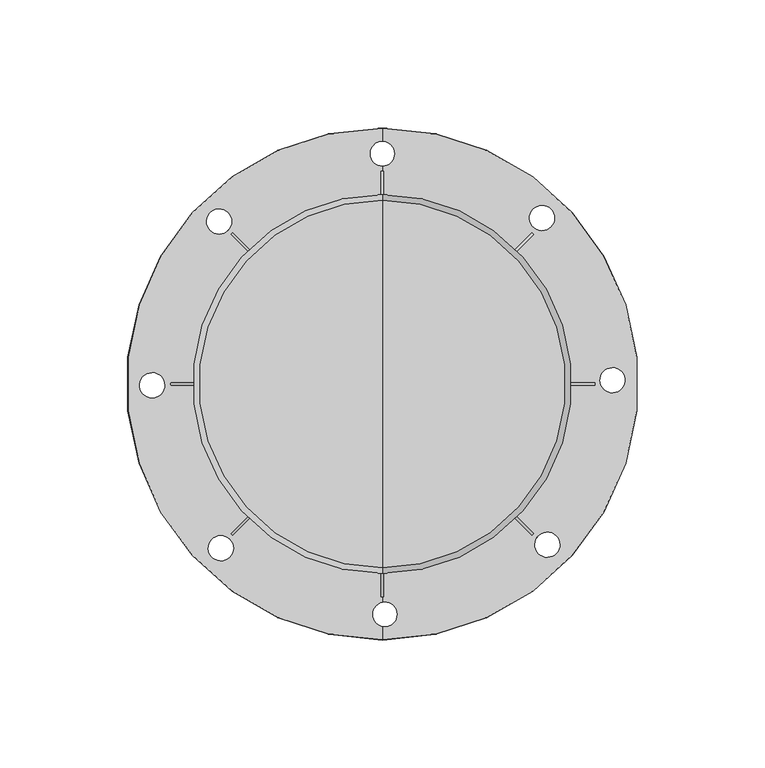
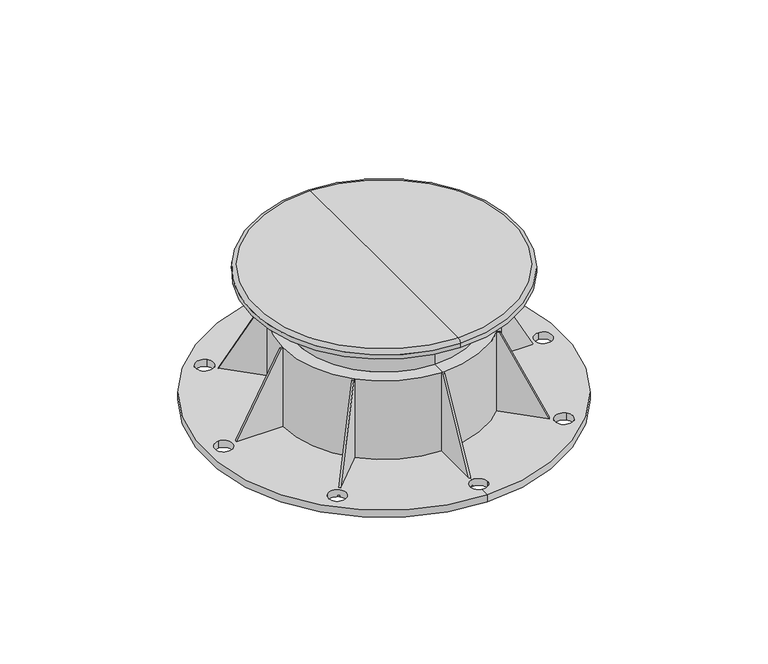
"""IFC4 building model written with IfcOpenShell, lengths in millimetres: proxy geometry, Podparcie legarow : Podparcie legarow."""

from ifc_helpers import new_model, si_unit, point, frame, origin, place, context, project, spatial, polyline, circle_curve, ellipse_curve, trimmed, outline, extrude, source, transform, mapped, element, save
from ifc_brep_helpers import plane_surface, cylinder_surface, revolved_surface, advanced_brep


def generic_models_15976a7a(model_context):
    return source(origin(), model_context, "Body", "SolidModel", [
        extrude(outline(polyline([(-14.1498784, 0.0), (14.1498783, 0.0), (14.1498783, -50.49991), (12.75627, -50.49991), (-14.1498784, 0.0)])), frame((-50.5370153, 49.8160648, 0.0), z_axis=(0.7071067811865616, 0.7071067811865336, 0.0), x_axis=(0.7071067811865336, -0.7071067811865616, 0.0)), (0.0, 0.0, 1.0), 0.999986),
        extrude(outline(polyline([(85.1102218, 0.0), (56.8104652, 0.0), (56.8104652, 50.49991), (58.2040735, 50.49991), (85.1102218, 0.0)])), frame((-0.509789, 0.0, 0.0), z_axis=(1.0, 0.0, 0.0), x_axis=(0.0, 1.0, 0.0)), (0.0, 0.0, 1.0), 0.999986),
        extrude(outline(polyline([(-14.1498784, 0.0), (14.1498783, 0.0), (-12.75627, -50.49991), (-14.1498784, -50.49991), (-14.1498784, 0.0)])), frame((50.5231617, 49.8299185, 0.0), z_axis=(-0.7071067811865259, 0.7071067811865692, 0.0), x_axis=(0.7071067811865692, 0.7071067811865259, 0.0)), (0.0, 0.0, 1.0), 0.999986),
        extrude(outline(polyline([(0.0, 56.8104652), (0.0, 85.1102218), (50.49991, 58.2040735), (50.49991, 56.8104652), (0.0, 56.8104652)])), frame((0.0, -0.490197, 0.0), z_axis=(0.0, 1.0, 0.0), x_axis=(0.0, 0.0, 1.0)), (0.0, 0.0, 1.0), 0.999986),
        extrude(outline(polyline([(-14.1498784, 0.0), (14.1498783, 0.0), (-12.75627, -50.49991), (-14.1498784, -50.49991), (-14.1498784, 0.0)])), frame((49.8299185, -50.5231617, 0.0), z_axis=(0.7071067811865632, 0.7071067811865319, 0.0), x_axis=(0.7071067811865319, -0.7071067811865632, 0.0)), (0.0, 0.0, 1.0), 0.999986),
        extrude(outline(polyline([(-56.8104652, 0.0), (-85.1102218, 0.0), (-58.2040735, 50.49991), (-56.8104652, 50.49991), (-56.8104652, 0.0)])), frame((-0.490197, 0.0, 0.0), z_axis=(1.0, 0.0, 0.0), x_axis=(0.0, 1.0, 0.0)), (0.0, 0.0, 1.0), 0.999986),
        extrude(outline(polyline([(-14.1498784, 0.0), (14.1498783, 0.0), (14.1498783, -50.49991), (12.75627, -50.49991), (-14.1498784, 0.0)])), frame((-49.8160648, -50.5370153, 0.0), z_axis=(-0.7071067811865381, 0.707106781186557, 0.0), x_axis=(0.707106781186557, 0.7071067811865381, 0.0)), (0.0, 0.0, 1.0), 0.999986),
        advanced_brep(
        [(0.0, 56.81258, 50.49991), (0.0, 56.81258, 4.099786), (-56.8104652, 0.490197, 4.099786), (-56.8104652, 0.490197, 50.49991), (0.0, -56.81258, 4.099786), (0.0, -56.81258, 50.49991), (-56.8102927, -0.509789, 50.49991), (-56.8102927, -0.509789, 4.099786), (0.0, -49.25328, 50.49991), (0.0, 49.25328, 50.49991), (-58.2040735, 0.490197, 50.49991), (-58.2040735, -0.509789, 50.49991), (0.0, -49.25328, 75.49989), (0.0, 49.25328, 75.49989), (0.0, -73.99988, 75.49989), (0.0, 73.99988, 75.49989), (0.0, -73.99988, 78.03481), (0.0, 73.99988, 78.03481), (0.0, -71.76101, 79.99992), (0.0, 71.76101, 79.99992), (0.0, 0.0, 79.99992), (0.0, -100.019, 0.0), (0.0, 100.019, 0.0), (0.0, 94.8778434, 0.0), (-3.5271568, 93.3774413, 0.0), (0.0, 85.0857743, 0.0), (0.0, 0.0, 0.0), (0.0, -85.2046473, 0.0), (-3.9187228, -90.0553531, 0.0), (0.0, -94.7997669, 0.0), (-90.0327577, 4.4074436, 0.0), (-89.9796109, -5.3844813, 0.0), (-85.1101959, -0.509789, 0.0), (-85.2089695, 0.490197, 0.0), (-59.6345725, -67.5946801, 0.0), (-66.6147518, -60.7272414, 0.0), (-67.2700158, 60.0005666, 0.0), (-60.3647931, 66.9433698, 0.0), (5.8727694, -89.9490611, 0.0), (3.5271568, 86.5861764, 0.0), (58.897325, 68.2380255, 0.0), (65.9516385, 61.4467606, 0.0), (89.9158616, 6.3608845, 0.0), (90.0752957, -3.4298866, 0.0), (67.9173531, -59.2668217, 0.0), (61.0879008, -66.2841715, 0.0), (0.0, -100.0075, 4.099786), (0.0, 100.0075, 4.099786), (0.0, -94.7997669, 4.099786), (-3.9187228, -90.0553531, 4.099786), (0.0, -85.2046473, 4.099786), (-82.9258724, -0.509789, 4.099786), (-82.9258724, 0.490197, 4.099786), (0.0, 85.0857743, 4.099786), (-3.5271568, 93.3774413, 4.099786), (0.0, 94.8778434, 4.099786), (-90.0327577, 4.4074436, 4.099786), (-89.9796109, -5.3844813, 4.099786), (-66.6147518, -60.7272414, 4.099786), (-59.6345725, -67.5946801, 4.099786), (-60.3647931, 66.9433698, 4.099786), (-67.2700158, 60.0005666, 4.099786), (5.8727694, -89.9490611, 4.099786), (3.5271568, 86.5861764, 4.099786), (65.9516385, 61.4467606, 4.099786), (58.897325, 68.2380255, 4.099786), (90.0752957, -3.4298866, 4.099786), (89.9158616, 6.3608845, 4.099786), (61.0879008, -66.2841715, 4.099786), (67.9173531, -59.2668217, 4.099786)],
        [
            (0, 1),
            (1, 2, circle_curve(frame((0.0, 0.0, 4.099786), z_axis=(0.0, 0.0, 1.0), x_axis=(0.0, 1.0, 0.0)), 56.81258)),
            (2, 3),
            (3, 0, circle_curve(frame((0.0, 0.0, 50.49991), z_axis=(0.0, 0.0, -1.0), x_axis=(0.0, 1.0, 0.0)), 56.81258)),
            (4, 5),
            (5, 6, circle_curve(frame((0.0, 0.0, 50.49991), z_axis=(0.0, 0.0, -1.0), x_axis=(0.0, 1.0, 0.0)), 56.81258)),
            (6, 7),
            (7, 4, circle_curve(frame((0.0, 0.0, 4.099786), z_axis=(0.0, 0.0, 1.0), x_axis=(0.0, 1.0, 0.0)), 56.81258)),
            (0, 5, circle_curve(frame((0.0, 0.0, 50.49991), z_axis=(0.0, 0.0, -1.0), x_axis=(0.0, 1.0, 0.0)), 56.81258)),
            (4, 1, circle_curve(frame((0.0, 0.0, 4.099786), z_axis=(0.0, 0.0, 1.0), x_axis=(0.0, 1.0, 0.0)), 56.81258)),
            (8, 9, circle_curve(frame((0.0, 0.0, 50.49991), z_axis=(0.0, 0.0, -1.0), x_axis=(0.0, 1.0, 0.0)), 49.25328)),
            (9, 0),
            (3, 10),
            (10, 11),
            (11, 6),
            (5, 8),
            (9, 8, circle_curve(frame((0.0, 0.0, 50.49991), z_axis=(0.0, 0.0, -1.0), x_axis=(0.0, 1.0, 0.0)), 49.25328)),
            (8, 12),
            (12, 13, circle_curve(frame((0.0, 0.0, 75.49989), z_axis=(0.0, 0.0, -1.0), x_axis=(0.0, 1.0, 0.0)), 49.25328)),
            (13, 9),
            (13, 12, circle_curve(frame((0.0, 0.0, 75.49989), z_axis=(0.0, 0.0, -1.0), x_axis=(0.0, 1.0, 0.0)), 49.25328)),
            (12, 14),
            (14, 15, circle_curve(frame((0.0, 0.0, 75.49989), z_axis=(0.0, 0.0, -1.0), x_axis=(0.0, 1.0, 0.0)), 73.99988)),
            (15, 13),
            (15, 14, circle_curve(frame((0.0, 0.0, 75.49989), z_axis=(0.0, 0.0, -1.0), x_axis=(0.0, 1.0, 0.0)), 73.99988)),
            (14, 16),
            (16, 17, circle_curve(frame((0.0, 0.0, 78.03481), z_axis=(0.0, 0.0, -1.0), x_axis=(0.0, 1.0, 0.0)), 73.99988)),
            (17, 15),
            (17, 16, circle_curve(frame((0.0, 0.0, 78.03481), z_axis=(0.0, 0.0, -1.0), x_axis=(0.0, 1.0, 0.0)), 73.99988)),
            (16, 18, circle_curve(frame((0.0, -71.8796652, 77.8771663), z_axis=(-1.0, 0.0, 0.0), x_axis=(0.0, 0.05580972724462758, 0.9984414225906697)), 2.1260673)),
            (18, 19, circle_curve(frame((0.0, 0.0, 79.99992), z_axis=(0.0, 0.0, -1.0), x_axis=(0.0, 1.0, 0.0)), 71.76101)),
            (19, 17, circle_curve(frame((0.0, 71.8796652, 77.8771663), z_axis=(-1.0, 0.0, 0.0), x_axis=(0.0, -0.05580972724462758, 0.9984414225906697)), 2.1260673)),
            (19, 18, circle_curve(frame((0.0, 0.0, 79.99992), z_axis=(0.0, 0.0, -1.0), x_axis=(0.0, 1.0, 0.0)), 71.76101)),
            (18, 20),
            (20, 19),
            (21, 22, circle_curve(frame((0.0, 0.0, 0.0), z_axis=(0.0, 0.0, -1.0), x_axis=(0.0, 1.0, 0.0)), 100.019)),
            (22, 23),
            (23, 24, circle_curve(frame((0.0, 89.9818088, 0.0), z_axis=(0.0, 0.0, 1.0), x_axis=(0.7204109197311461, -0.6935474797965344, 0.0)), 4.8960346)),
            (24, 25, circle_curve(frame((0.0, 89.9818088, 0.0), z_axis=(0.0, 0.0, 1.0), x_axis=(0.7204109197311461, -0.6935474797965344, 0.0)), 4.8960346)),
            (25, 26),
            (26, 27),
            (27, 28, circle_curve(frame((0.9770233, -90.0022071, 0.0), z_axis=(0.0, 0.0, 1.0), x_axis=(-0.9999410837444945, -0.010854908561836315, 0.0)), 4.8960346)),
            (28, 29, circle_curve(frame((0.9770233, -90.0022071, 0.0), z_axis=(0.0, 0.0, 1.0), x_axis=(-0.9999410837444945, -0.010854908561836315, 0.0)), 4.8960346)),
            (29, 21),
            (30, 31, circle_curve(frame((-90.0061843, -0.4885188, 0.0), z_axis=(0.0, 0.0, 1.0), x_axis=(-0.005427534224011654, 0.9999852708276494, 0.0)), 4.8960346)),
            (31, 32, circle_curve(frame((-90.0061843, -0.4885188, 0.0), z_axis=(0.0, 0.0, 1.0), x_axis=(-0.005427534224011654, 0.9999852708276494, 0.0)), 4.8960346)),
            (32, 33, circle_curve(frame((-90.0061843, -0.4885188, 0.0), z_axis=(0.0, 0.0, 1.0), x_axis=(-0.005427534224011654, 0.9999852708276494, 0.0)), 4.8960346)),
            (33, 30, circle_curve(frame((-90.0061843, -0.4885188, 0.0), z_axis=(0.0, 0.0, 1.0), x_axis=(-0.005427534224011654, 0.9999852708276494, 0.0)), 4.8960346)),
            (34, 35, circle_curve(frame((-63.1246622, -64.1609607, 0.0), z_axis=(0.0, 0.0, 1.0), x_axis=(-0.7128400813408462, 0.7013266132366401, 0.0)), 4.8960346)),
            (35, 34, circle_curve(frame((-63.1246622, -64.1609607, 0.0), z_axis=(0.0, 0.0, 1.0), x_axis=(-0.7128400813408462, 0.7013266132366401, 0.0)), 4.8960346)),
            (36, 37, circle_curve(frame((-63.8174044, 63.4719682, 0.0), z_axis=(0.0, 0.0, 1.0), x_axis=(0.7051852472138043, 0.7090231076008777, 0.0)), 4.8960346)),
            (37, 36, circle_curve(frame((-63.8174044, 63.4719682, 0.0), z_axis=(0.0, 0.0, 1.0), x_axis=(0.7051852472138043, 0.7090231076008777, 0.0)), 4.8960346)),
            (22, 21, circle_curve(frame((0.0, 0.0, 0.0), z_axis=(0.0, 0.0, -1.0), x_axis=(0.0, 1.0, 0.0)), 100.019)),
            (29, 38, circle_curve(frame((0.9770233, -90.0022071, 0.0), z_axis=(0.0, 0.0, 1.0), x_axis=(-0.9999410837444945, -0.010854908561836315, 0.0)), 4.8960346)),
            (38, 27, circle_curve(frame((0.9770233, -90.0022071, 0.0), z_axis=(0.0, 0.0, 1.0), x_axis=(-0.9999410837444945, -0.010854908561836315, 0.0)), 4.8960346)),
            (25, 39, circle_curve(frame((0.0, 89.9818088, 0.0), z_axis=(0.0, 0.0, 1.0), x_axis=(0.7204109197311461, -0.6935474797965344, 0.0)), 4.8960346)),
            (39, 23, circle_curve(frame((0.0, 89.9818088, 0.0), z_axis=(0.0, 0.0, 1.0), x_axis=(0.7204109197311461, -0.6935474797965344, 0.0)), 4.8960346)),
            (40, 41, circle_curve(frame((62.4244817, 64.8423931, 0.0), z_axis=(0.0, 0.0, 1.0), x_axis=(0.7204109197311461, -0.6935474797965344, 0.0)), 4.8960346)),
            (41, 40, circle_curve(frame((62.4244817, 64.8423931, 0.0), z_axis=(0.0, 0.0, 1.0), x_axis=(0.7204109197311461, -0.6935474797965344, 0.0)), 4.8960346)),
            (42, 43, circle_curve(frame((89.9955786, 1.465499, 0.0), z_axis=(0.0, 0.0, 1.0), x_axis=(0.016281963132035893, -0.9998674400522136, 0.0)), 4.8960346)),
            (43, 42, circle_curve(frame((89.9955786, 1.465499, 0.0), z_axis=(0.0, 0.0, 1.0), x_axis=(0.016281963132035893, -0.9998674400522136, 0.0)), 4.8960346)),
            (44, 45, circle_curve(frame((64.502627, -62.7754966, 0.0), z_axis=(0.0, 0.0, 1.0), x_axis=(-0.6974473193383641, -0.7166360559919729, 0.0)), 4.8960346)),
            (45, 44, circle_curve(frame((64.502627, -62.7754966, 0.0), z_axis=(0.0, 0.0, 1.0), x_axis=(-0.6974473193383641, -0.7166360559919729, 0.0)), 4.8960346)),
            (21, 46),
            (46, 47, circle_curve(frame((0.0, 0.0, 4.099786), z_axis=(0.0, 0.0, -1.0), x_axis=(0.0, 1.0, 0.0)), 100.0075)),
            (47, 22),
            (47, 46, circle_curve(frame((0.0, 0.0, 4.099786), z_axis=(0.0, 0.0, -1.0), x_axis=(0.0, 1.0, 0.0)), 100.0075)),
            (46, 48),
            (48, 49, circle_curve(frame((0.9770233, -90.0022071, 4.099786), z_axis=(0.0, 0.0, -1.0), x_axis=(-0.9999410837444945, -0.010854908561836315, 0.0)), 4.8960346)),
            (49, 50, circle_curve(frame((0.9770233, -90.0022071, 4.099786), z_axis=(0.0, 0.0, -1.0), x_axis=(-0.9999410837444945, -0.010854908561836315, 0.0)), 4.8960346)),
            (50, 4),
            (7, 51),
            (51, 52),
            (52, 2),
            (1, 53),
            (53, 54, circle_curve(frame((0.0, 89.9818088, 4.099786), z_axis=(0.0, 0.0, -1.0), x_axis=(0.7204109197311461, -0.6935474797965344, 0.0)), 4.8960346)),
            (54, 55, circle_curve(frame((0.0, 89.9818088, 4.099786), z_axis=(0.0, 0.0, -1.0), x_axis=(0.7204109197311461, -0.6935474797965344, 0.0)), 4.8960346)),
            (55, 47),
            (56, 57, circle_curve(frame((-90.0061843, -0.4885188, 4.099786), z_axis=(0.0, 0.0, -1.0), x_axis=(-0.005427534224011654, 0.9999852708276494, 0.0)), 4.8960346)),
            (57, 56, circle_curve(frame((-90.0061843, -0.4885188, 4.099786), z_axis=(0.0, 0.0, -1.0), x_axis=(-0.005427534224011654, 0.9999852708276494, 0.0)), 4.8960346)),
            (58, 59, circle_curve(frame((-63.1246622, -64.1609607, 4.099786), z_axis=(0.0, 0.0, -1.0), x_axis=(-0.7128400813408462, 0.7013266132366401, 0.0)), 4.8960346)),
            (59, 58, circle_curve(frame((-63.1246622, -64.1609607, 4.099786), z_axis=(0.0, 0.0, -1.0), x_axis=(-0.7128400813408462, 0.7013266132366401, 0.0)), 4.8960346)),
            (60, 61, circle_curve(frame((-63.8174044, 63.4719682, 4.099786), z_axis=(0.0, 0.0, -1.0), x_axis=(0.7051852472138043, 0.7090231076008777, 0.0)), 4.8960346)),
            (61, 60, circle_curve(frame((-63.8174044, 63.4719682, 4.099786), z_axis=(0.0, 0.0, -1.0), x_axis=(0.7051852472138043, 0.7090231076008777, 0.0)), 4.8960346)),
            (50, 62, circle_curve(frame((0.9770233, -90.0022071, 4.099786), z_axis=(0.0, 0.0, -1.0), x_axis=(-0.9999410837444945, -0.010854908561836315, 0.0)), 4.8960346)),
            (62, 48, circle_curve(frame((0.9770233, -90.0022071, 4.099786), z_axis=(0.0, 0.0, -1.0), x_axis=(-0.9999410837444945, -0.010854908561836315, 0.0)), 4.8960346)),
            (55, 63, circle_curve(frame((0.0, 89.9818088, 4.099786), z_axis=(0.0, 0.0, -1.0), x_axis=(0.7204109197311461, -0.6935474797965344, 0.0)), 4.8960346)),
            (63, 53, circle_curve(frame((0.0, 89.9818088, 4.099786), z_axis=(0.0, 0.0, -1.0), x_axis=(0.7204109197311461, -0.6935474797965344, 0.0)), 4.8960346)),
            (64, 65, circle_curve(frame((62.4244817, 64.8423931, 4.099786), z_axis=(0.0, 0.0, -1.0), x_axis=(0.7204109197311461, -0.6935474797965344, 0.0)), 4.8960346)),
            (65, 64, circle_curve(frame((62.4244817, 64.8423931, 4.099786), z_axis=(0.0, 0.0, -1.0), x_axis=(0.7204109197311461, -0.6935474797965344, 0.0)), 4.8960346)),
            (66, 67, circle_curve(frame((89.9955786, 1.465499, 4.099786), z_axis=(0.0, 0.0, -1.0), x_axis=(0.016281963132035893, -0.9998674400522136, 0.0)), 4.8960346)),
            (67, 66, circle_curve(frame((89.9955786, 1.465499, 4.099786), z_axis=(0.0, 0.0, -1.0), x_axis=(0.016281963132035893, -0.9998674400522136, 0.0)), 4.8960346)),
            (68, 69, circle_curve(frame((64.502627, -62.7754966, 4.099786), z_axis=(0.0, 0.0, -1.0), x_axis=(-0.6974473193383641, -0.7166360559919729, 0.0)), 4.8960346)),
            (69, 68, circle_curve(frame((64.502627, -62.7754966, 4.099786), z_axis=(0.0, 0.0, -1.0), x_axis=(-0.6974473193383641, -0.7166360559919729, 0.0)), 4.8960346)),
            (31, 57),
            (56, 30),
            (34, 59),
            (58, 35),
            (38, 62),
            (49, 28),
            (40, 65),
            (64, 41),
            (42, 67),
            (66, 43),
            (44, 69),
            (68, 45),
            (24, 54),
            (63, 39),
            (36, 61),
            (60, 37),
            (10, 52),
            (51, 11),
        ],
        [
            cylinder_surface(frame((0.0, 0.0, 99.99992), z_axis=(0.0, 0.0, 1.0), x_axis=(0.0, 1.0, 0.0)), 56.81258),
            plane_surface(frame((0.0, 0.0, 50.49991), z_axis=(0.0, 0.0, 1.0), x_axis=(0.0, 1.0, 0.0))),
            cylinder_surface(frame((0.0, 0.0, 99.99992), z_axis=(0.0, 0.0, 1.0), x_axis=(0.0, 1.0, 0.0)), 49.25328),
            plane_surface(frame((0.0, 0.0, 75.49989), z_axis=(0.0, 0.0, -1.0), x_axis=(0.0, 1.0, 0.0))),
            cylinder_surface(frame((0.0, 0.0, 99.99992), z_axis=(0.0, 0.0, 1.0), x_axis=(0.0, 1.0, 0.0)), 73.99988),
            revolved_surface(trimmed(ellipse_curve(frame((0.0, 71.8796652, 77.8771663), z_axis=(1.0, 0.0, 0.0), x_axis=(0.0, -0.05580972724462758, 0.9984414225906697)), 2.1260673, 2.1260673), [point((0.0, 73.99988, 78.03481))], [point((0.0, 71.76101, 79.99992))], True, "CARTESIAN"), (0.0, 0.0, 99.99992), (0.0, 0.0, 1.0)),
            plane_surface(frame((0.0, 0.0, 79.99992), z_axis=(0.0, 0.0, 1.0), x_axis=(0.0, 1.0, 0.0))),
            plane_surface(frame((0.0, 0.0, 0.0), z_axis=(0.0, 0.0, -1.0), x_axis=(0.0, 1.0, 0.0))),
            revolved_surface(polyline([(0.0, 100.019, 0.0), (0.0, 100.0075, 4.099786)]), (0.0, 0.0, 99.99992), (0.0, 0.0, 1.0)),
            plane_surface(frame((0.0, 0.0, 4.099786), z_axis=(0.0, 0.0, 1.0), x_axis=(0.0, 1.0, 0.0))),
            revolved_surface(polyline([(-90.03275769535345, 4.4074436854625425, 4.09978600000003), (-90.03275769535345, 4.4074436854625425, 2.842170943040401e-14)]), (-90.0061843, -0.4885188, -56.8316427), (0.0, 0.0, 1.0000000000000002)),
            revolved_surface(polyline([(-66.6147519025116, -60.7272413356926, 4.099786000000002), (-66.6147519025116, -60.7272413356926, 0.0)]), (-63.1246622, -64.1609607, -56.8316427), (0.0, 0.0, 1.0)),
            revolved_surface(polyline([(-3.9187228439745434, -90.0553531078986, 4.099786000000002), (-3.9187228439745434, -90.0553531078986, 0.0)]), (0.9770233, -90.0022071, -56.8316427), (0.0, 0.0, 1.0)),
            revolved_surface(polyline([(65.95163848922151, 61.44676064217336, 4.09978600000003), (65.95163848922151, 61.44676064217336, 2.842170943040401e-14)]), (62.4244817, 64.8423931, -56.8316427), (0.0, 0.0, 1.0000000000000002)),
            revolved_surface(polyline([(90.07529565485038, -3.429886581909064, 4.099786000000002), (90.07529565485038, -3.429886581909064, 0.0)]), (89.9955786, 1.465499, -56.8316427), (0.0, 0.0, 1.0)),
            revolved_surface(polyline([(61.08790079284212, -66.28417152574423, 4.09978600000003), (61.08790079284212, -66.28417152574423, 2.842170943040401e-14)]), (64.502627, -62.7754966, -56.8316427), (0.0, 0.0, 1.0000000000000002)),
            revolved_surface(polyline([(3.527156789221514, 86.58617634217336, 4.09978600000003), (3.527156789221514, 86.58617634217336, 2.842170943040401e-14)]), (0.0, 89.9818088, -56.8316427), (0.0, 0.0, 1.0000000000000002)),
            revolved_surface(polyline([(-60.36479303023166, 66.94336986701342, 4.099786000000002), (-60.36479303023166, 66.94336986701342, 0.0)]), (-63.8174044, 63.4719682, -56.8316427), (0.0, 0.0, 1.0)),
            plane_surface(frame((-85.1102218, -0.009796, 0.0), z_axis=(-0.8825497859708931, 0.0, 0.47021896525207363), x_axis=(0.0, -1.0, 0.0))),
            plane_surface(frame((-70.9603435, -0.509789, 0.0), z_axis=(0.0, -1.0, 0.0), x_axis=(1.0, 0.0, 0.0))),
            plane_surface(frame((-70.9603435, 0.490197, 0.0), z_axis=(0.0, 1.0, 0.0), x_axis=(-1.0, 0.0, 0.0))),
        ],
        [
            (0, [[1, 2, 3, 4]]),
            (0, [[5, 6, 7, 8]]),
            (0, [[-1, 9, -5, 10]]),
            (1, [[11, 12, -4, 13, 14, 15, -6, 16]]),
            (1, [[-9, -12, 17, -16]]),
            (2, [[-11, 18, 19, 20]]),
            (2, [[-17, -20, 21, -18]]),
            (3, [[-19, 22, 23, 24]]),
            (3, [[-21, -24, 25, -22]]),
            (4, [[-23, 26, 27, 28]]),
            (4, [[-25, -28, 29, -26]]),
            (5, [[-27, 30, 31, 32]]),
            (5, [[-29, -32, 33, -30]]),
            (6, [[-31, 34, 35]]),
            (6, [[-33, -35, -34]]),
            (7, [[36, 37, 38, 39, 40, 41, 42, 43, 44], [45, 46, 47, 48], [49, 50], [51, 52]]),
            (7, [[53, -44, 54, 55, -41, -40, 56, 57, -37], [58, 59], [60, 61], [62, 63]]),
            (8, [[-36, 64, 65, 66]]),
            (8, [[-53, -66, 67, -64]]),
            (9, [[-65, 68, 69, 70, 71, -8, 72, 73, 74, -2, 75, 76, 77, 78], [79, 80], [81, 82], [83, 84]]),
            (9, [[-10, -71, 85, 86, -68, -67, -78, 87, 88, -75], [89, 90], [91, 92], [93, 94]]),
            (10, [[95, -79, 96, -48, -47, -46]]),
            (10, [[-95, -45, -96, -80]]),
            (11, [[97, -81, 98, -49]]),
            (11, [[-97, -50, -98, -82]]),
            (12, [[99, -85, -70, 100, -42, -55]]),
            (12, [[-99, -54, -43, -100, -69, -86]]),
            (13, [[101, -89, 102, -58]]),
            (13, [[-101, -59, -102, -90]]),
            (14, [[103, -91, 104, -60]]),
            (14, [[-103, -61, -104, -92]]),
            (15, [[105, -93, 106, -62]]),
            (15, [[-105, -63, -106, -94]]),
            (16, [[107, -76, -88, 108, -56, -39]]),
            (16, [[-107, -38, -57, -108, -87, -77]]),
            (17, [[109, -83, 110, -51]]),
            (17, [[-109, -52, -110, -84]]),
            (18, [[-14, 111, -73, 112]]),
            (19, [[-15, -112, -72, -7]]),
            (20, [[-13, -3, -74, -111]]),
        ],
    ),
    ])


if __name__ == "__main__":
    model = new_model("IFC4")
    model_context = context("Model", 3, world=origin())
    ifc_project = project(units=[si_unit("LENGTHUNIT", "METRE", prefix="MILLI")], contexts=[model_context])
    site = spatial("IfcSite", under=ifc_project)
    building = spatial("IfcBuilding", under=site)
    placement = place(None, origin())
    generic_models_shape = generic_models_15976a7a(model_context)
    element("IfcBuildingElementProxy", 1, Name="Podparcie legarow : Podparcie legarow", ObjectType="Podparcie legarow : Podparcie legarow", at=placement, inside=building, context=model_context, shape_type="MappedRepresentation", body=[
        mapped(generic_models_shape, transform((0.0, 0.0, 0.0), x_axis=(1.0, 0.0, 0.0), y_axis=(0.0, 1.0, 0.0), z_axis=(0.0, 0.0, 1.0))),
    ])
    save(model, "model.ifc")
